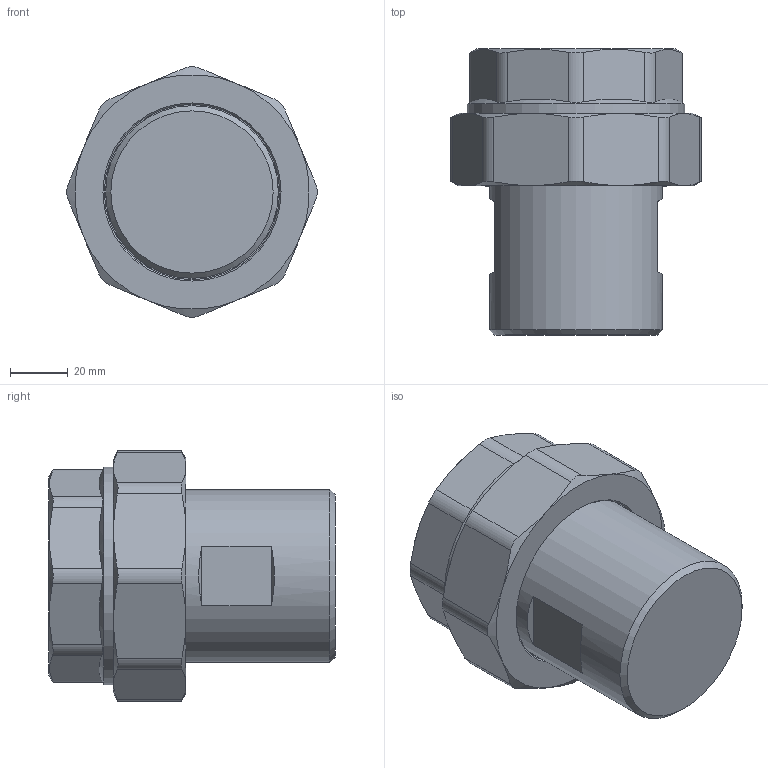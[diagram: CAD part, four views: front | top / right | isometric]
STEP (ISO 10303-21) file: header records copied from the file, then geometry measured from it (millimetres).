
FILE_DESCRIPTION(('STEP AP203'), '1');
FILE_NAME('覆.302612.006.000 捘 - VTr.341.N.0009', '2024-07-18T13:47:18', ('Boss'), (''), 'C3D Converter', 'C3D Toolkit', '');
FILE_SCHEMA(('CONFIG_CONTROL_DESIGN'));
Length unit declared in the file: millimetre
Products named in the file (1): ВР.302612.006.000 СБ
Bounding box: 86.52 x 98.76 x 86.52 mm (x, y, z)
Volume: 366655 mm3; surface area: 33234.3 mm2
Topology: 1 solids, 1 shells, 67 faces, 162 edges, 102 vertices
Faces by surface type: plane 27, cone 21, cylinder 19
Full cylindrical faces by diameter (mm): 59.614 x1, 60.5 x1, 75.184 x1
Entity records: 4446 total; most frequent: CARTESIAN_POINT 3030, ORIENTED_EDGE 310, DIRECTION 233, EDGE_CURVE 155, VERTEX_POINT 103, AXIS2_PLACEMENT_3D 96, B_SPLINE_CURVE_WITH_KNOTS 82, EDGE_LOOP 79
